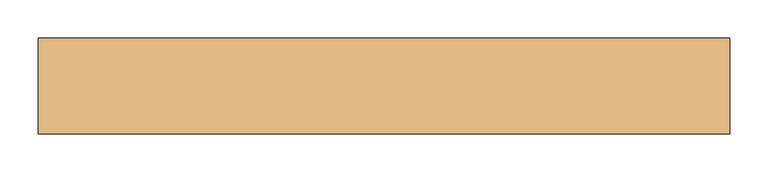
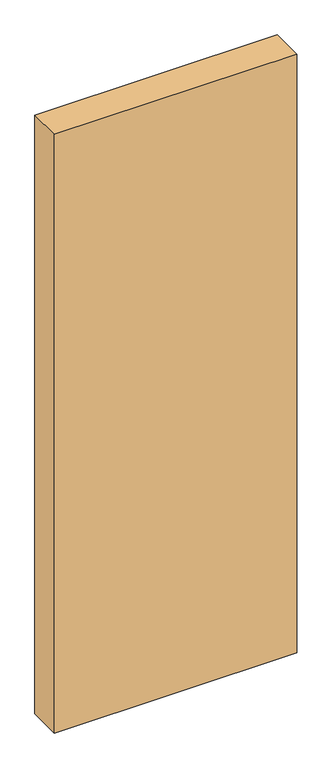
"""IFC4 building model written with IfcOpenShell, lengths in millimetres: door geometry, Dr_Проем-Простой : ДВ."""

import ifcopenshell
import ifcopenshell.guid

model = None  # the IFC model being written
_history = None  # IfcOwnerHistory: only IFC2X3 demands one
_inside = {}  # id of a spatial element -> (the spatial element, [elements in it])
_under = {}  # id of a project, library or spatial element -> (it, [spatial elements below it])
_declared = {}  # id of a project -> (the project, [libraries it declares])
_typed = {}  # id of a type object -> (the type object, [elements of that type])
_made_of = {}  # id of a material, layer set ... -> (it, [elements and type objects made of it])


def new_model(schema):
    """Start an empty IFC model of exactly this schema.

    Asked for "IFC4X3", IfcOpenShell would pick the latest addendum, in which some entities
    have other attributes; the version numbers below select the first issue.
    IFC2X3 requires an IfcOwnerHistory on every rooted entity: one is made here for all.
    """
    global model, _history
    if schema == "IFC4X3":
        model = ifcopenshell.file(schema_version=(4, 3, 0, 0))
    else:
        model = ifcopenshell.file(schema=schema)
    _inside.clear()
    _under.clear()
    _declared.clear()
    _typed.clear()
    _made_of.clear()
    _history = None
    if model.schema == "IFC2X3":
        org = make("IfcOrganization", Name="unknown")
        user = make(
            "IfcPersonAndOrganization",
            ThePerson=make("IfcPerson", FamilyName="unknown"),
            TheOrganization=org,
        )
        app = make(
            "IfcApplication",
            ApplicationDeveloper=org,
            Version="unknown",
            ApplicationFullName="unknown",
            ApplicationIdentifier="unknown",
        )
        _history = make(
            "IfcOwnerHistory",
            OwningUser=user,
            OwningApplication=app,
            ChangeAction="ADDED",
            CreationDate=0,
        )
    return model


def make(cls, **values):
    """One entity of the class cls with the attributes given. An attribute that is None is left unset."""
    return model.create_entity(
        cls, **{name: value for name, value in values.items() if value is not None}
    )


def rooted(cls, **values):
    """An entity with a GlobalId (a new one), such as an element, a storey or a relation."""
    return make(cls, GlobalId=ifcopenshell.guid.new(), OwnerHistory=_history, **values)


def si_unit(unit_type, name, prefix=None):
    """IfcSIUnit, for example si_unit("LENGTHUNIT", "METRE", prefix="MILLI")."""
    return make("IfcSIUnit", UnitType=unit_type, Prefix=prefix, Name=name)


def assignment(units):
    """IfcUnitAssignment: the units of a project."""
    return None if units is None else make("IfcUnitAssignment", Units=units)


def point(xyz):
    """IfcCartesianPoint."""
    return None if xyz is None else make("IfcCartesianPoint", Coordinates=xyz)


def direction(xyz):
    """IfcDirection."""
    return None if xyz is None else make("IfcDirection", DirectionRatios=xyz)


def frame(location, z_axis=None, x_axis=None):
    """IfcAxis2Placement3D, a coordinate frame: its origin and axes. An axis left out is left unset."""
    return make(
        "IfcAxis2Placement3D",
        Location=point(location),
        Axis=direction(z_axis),
        RefDirection=direction(x_axis),
    )


def origin():
    """The frame at (0, 0, 0) with its axes left unset."""
    return frame((0.0, 0.0, 0.0))


def place(relative_to, where):
    """IfcLocalPlacement: puts the frame where relative to a parent placement (None: the world)."""
    return make(
        "IfcLocalPlacement", PlacementRelTo=relative_to, RelativePlacement=where
    )


def context(
    kind, dimensions, precision=None, world=None, true_north=None, identifier=None
):
    """IfcGeometricRepresentationContext, for example the 3D "Model" context."""
    return make(
        "IfcGeometricRepresentationContext",
        ContextIdentifier=identifier,
        ContextType=kind,
        CoordinateSpaceDimension=dimensions,
        Precision=precision,
        WorldCoordinateSystem=world,
        TrueNorth=true_north,
    )


def project(units=None, contexts=None):
    """IfcProject with its units and contexts."""
    return rooted(
        "IfcProject",
        Name="project",
        RepresentationContexts=contexts,
        UnitsInContext=assignment(units),
    )


def spatial(cls, under=None, at=None, **own):
    """A site, building, storey or space (cls), placed at a placement, below another one or the project."""
    s = rooted(cls, ObjectPlacement=at, **own)
    if under is not None:
        _under.setdefault(under.id(), (under, []))[1].append(s)
    return s


def polyline(points):
    """IfcPolyline through the points."""
    return make("IfcPolyline", Points=[point(p) for p in points])


def outline(outer, holes=None, kind="AREA"):
    """IfcArbitraryClosedProfileDef: a profile drawn as a closed curve; with holes, ...WithVoids."""
    if holes is None:
        return make("IfcArbitraryClosedProfileDef", ProfileType=kind, OuterCurve=outer)
    return make(
        "IfcArbitraryProfileDefWithVoids",
        ProfileType=kind,
        OuterCurve=outer,
        InnerCurves=holes,
    )


def extrude(swept, where, along, depth):
    """IfcExtrudedAreaSolid: the profile swept, set in the frame where, extruded along a direction by depth."""
    return make(
        "IfcExtrudedAreaSolid",
        SweptArea=swept,
        Position=where,
        ExtrudedDirection=direction(along),
        Depth=depth,
    )


def shape(context_of_items, identifier, shape_type, items):
    """IfcShapeRepresentation: the items that make up one representation, for example the "Body"."""
    return make(
        "IfcShapeRepresentation",
        ContextOfItems=context_of_items,
        RepresentationIdentifier=identifier,
        RepresentationType=shape_type,
        Items=items,
    )


def source(mapping_origin, context_of_items, identifier, shape_type, items):
    """IfcRepresentationMap: a shape defined once, which mapped items show again and again."""
    return make(
        "IfcRepresentationMap",
        MappingOrigin=mapping_origin,
        MappedRepresentation=shape(context_of_items, identifier, shape_type, items),
    )


def transform(
    local_origin,
    x_axis=None,
    y_axis=None,
    z_axis=None,
    scale=None,
    scale2=None,
    scale3=None,
    uniform=True,
):
    """IfcCartesianTransformationOperator3D, or its non-uniform kind. x_axis, y_axis, z_axis: its Axis1, 2, 3."""
    if uniform:
        return make(
            "IfcCartesianTransformationOperator3D",
            Axis1=direction(x_axis),
            Axis2=direction(y_axis),
            LocalOrigin=point(local_origin),
            Scale=scale,
            Axis3=direction(z_axis),
        )
    return make(
        "IfcCartesianTransformationOperator3DnonUniform",
        Axis1=direction(x_axis),
        Axis2=direction(y_axis),
        LocalOrigin=point(local_origin),
        Scale=scale,
        Axis3=direction(z_axis),
        Scale2=scale2,
        Scale3=scale3,
    )


def mapped(mapping_source, mapping_target):
    """IfcMappedItem: shows the shape of a source again, moved by a transform."""
    return make(
        "IfcMappedItem", MappingSource=mapping_source, MappingTarget=mapping_target
    )


def made_of(thing, what):
    """Note that an element or type object is made of a material, layer set ...; save() writes the relation."""
    if what is not None:
        _made_of.setdefault(what.id(), (what, []))[1].append(thing)
    return thing


def element(
    cls,
    number,
    at=None,
    inside=None,
    cuts=None,
    type_object=None,
    material=None,
    context=None,
    identifier="Body",
    shape_type=None,
    held_by="IfcProductDefinitionShape",
    body=None,
    shapes=None,
    **own,
):
    """One element of the class cls, such as IfcWall. Its Tag is "e" and its number.

    at: its placement. inside: the storey or other place that contains it. cuts: it is an
    opening in that element (IfcRelVoidsElement). A single representation is given by context,
    identifier, shape_type and body (its items); several are given by shapes. held_by: the class
    of the entity that holds the representations. save() writes the other relations.
    """
    e = rooted(cls, Tag="e%d" % number, ObjectPlacement=at, **own)
    if body is not None:
        shapes = [shape(context, identifier, shape_type, body)]
    if shapes is not None:
        e.Representation = make(held_by, Representations=shapes)
    if inside is not None:
        _inside.setdefault(inside.id(), (inside, []))[1].append(e)
    if cuts is not None:
        rooted(
            "IfcRelVoidsElement", RelatingBuildingElement=cuts, RelatedOpeningElement=e
        )
    if type_object is not None:
        _typed.setdefault(type_object.id(), (type_object, []))[1].append(e)
    return made_of(e, material)


def aggregate(whole, parts):
    """IfcRelAggregates: a whole, such as a stair, and the parts it consists of."""
    return rooted("IfcRelAggregates", RelatingObject=whole, RelatedObjects=parts)


def save(model, path):
    """Write the relations noted so far, then the file.

    IfcRelAggregates (storeys below a building ...), IfcRelContainedInSpatialStructure (elements
    in a storey), IfcRelDefinesByType, IfcRelAssociatesMaterial and IfcRelDeclares: one each for
    every whole, place, type object, material and project.
    """
    for whole, parts in _under.values():
        aggregate(whole, parts)
    for where, things in _inside.values():
        rooted(
            "IfcRelContainedInSpatialStructure",
            RelatedElements=things,
            RelatingStructure=where,
        )
    for kind, things in _typed.values():
        rooted("IfcRelDefinesByType", RelatedObjects=things, RelatingType=kind)
    for what, things in _made_of.values():
        rooted("IfcRelAssociatesMaterial", RelatedObjects=things, RelatingMaterial=what)
    for by, libraries in _declared.values():
        rooted("IfcRelDeclares", RelatingContext=by, RelatedDefinitions=libraries)
    model.write(path)


def door_cd97aef3(model_context):
    return source(origin(), model_context, "Body", "SweptSolid", [
        extrude(outline(polyline([(655.3230163, -62.5), (-244.6769837, -62.5), (-244.6769837, 62.5), (655.3230163, 62.5), (655.3230163, -62.5)])), frame((0.0, 0.0, -250.0), z_axis=(0.0, 0.0, 1.0), x_axis=(1.0, 0.0, 0.0)), (0.0, 0.0, 1.0), 2350.0),
    ])


if __name__ == "__main__":
    model = new_model("IFC4")
    model_context = context("Model", 3, world=origin())
    ifc_project = project(units=[si_unit("LENGTHUNIT", "METRE", prefix="MILLI")], contexts=[model_context])
    site = spatial("IfcSite", under=ifc_project)
    building = spatial("IfcBuilding", under=site)
    placement = place(None, origin())
    door_shape = door_cd97aef3(model_context)
    element("IfcDoor", 1, ObjectType="Dr_Проем-Простой : ДВ", at=placement, inside=building, context=model_context, shape_type="MappedRepresentation", body=[
        mapped(door_shape, transform((0.0, 0.0, 0.0), x_axis=(1.0, 0.0, 0.0), y_axis=(0.0, 1.0, 0.0), z_axis=(0.0, 0.0, 1.0))),
    ])
    save(model, "model.ifc")
